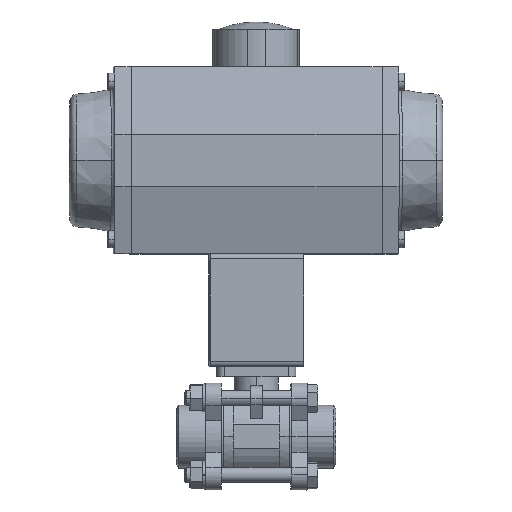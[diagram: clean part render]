
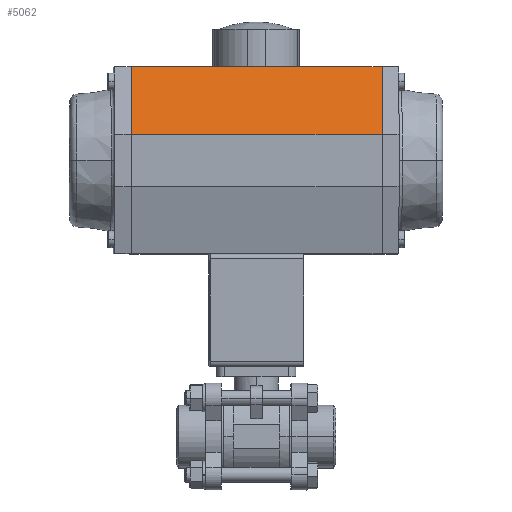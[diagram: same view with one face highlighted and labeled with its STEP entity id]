
A CAD part, top view. The second image highlights one B-rep face of the part: STEP entity #5062.
In plain terms, the highlighted planar face has unit normal (0.01, 0.255, 0.967) as drawn and (-0.967, 0.255, 0) by its records, which use the part's own axes.
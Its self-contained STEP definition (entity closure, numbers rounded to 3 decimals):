
#475 = DIRECTION ( 'NONE',  ( -0.255, -0.967, 0. ) ) ;
#822 = CARTESIAN_POINT ( 'NONE',  ( -42.5, 14., 67. ) ) ;
#840 = CARTESIAN_POINT ( 'NONE',  ( -33., 50., -67. ) ) ;
#1962 = CARTESIAN_POINT ( 'NONE',  ( -33., 50., -67. ) ) ;
#2930 = DIRECTION ( 'NONE',  ( -0.255, -0.967, 0. ) ) ;
#3181 = ORIENTED_EDGE ( 'NONE', *, *, #13735, .T. ) ;
#3276 = DIRECTION ( 'NONE',  ( -0.967, 0.255, 0. ) ) ;
#4361 = VECTOR ( 'NONE', #6103, 1000. ) ;
#4491 = EDGE_CURVE ( 'NONE', #10893, #7457, #15855, .T. ) ;
#4574 = LINE ( 'NONE', #15818, #4361 ) ;
#4577 = EDGE_CURVE ( 'NONE', #8665, #12922, #5393, .T. ) ;
#4600 = ORIENTED_EDGE ( 'NONE', *, *, #10222, .F. ) ;
#5062 = ADVANCED_FACE ( 'NONE', ( #14274 ), #14080, .T. ) ;
#5393 = LINE ( 'NONE', #6150, #8660 ) ;
#5971 = EDGE_LOOP ( 'NONE', ( #3181, #11640, #4600, #7565 ) ) ;
#6099 = AXIS2_PLACEMENT_3D ( 'NONE', #15666, #3276, #17182 ) ;
#6103 = DIRECTION ( 'NONE',  ( 0., 0., 1. ) ) ;
#6150 = CARTESIAN_POINT ( 'NONE',  ( -33., 50., -67. ) ) ;
#6872 = VECTOR ( 'NONE', #13026, 1000. ) ;
#7457 = VERTEX_POINT ( 'NONE', #822 ) ;
#7565 = ORIENTED_EDGE ( 'NONE', *, *, #4577, .T. ) ;
#8559 = CARTESIAN_POINT ( 'NONE',  ( -33., 50., 67. ) ) ;
#8660 = VECTOR ( 'NONE', #475, 1000. ) ;
#8665 = VERTEX_POINT ( 'NONE', #840 ) ;
#9476 = CARTESIAN_POINT ( 'NONE',  ( -42.5, 14., -67. ) ) ;
#10222 = EDGE_CURVE ( 'NONE', #8665, #10893, #17758, .T. ) ;
#10893 = VERTEX_POINT ( 'NONE', #13070 ) ;
#11640 = ORIENTED_EDGE ( 'NONE', *, *, #4491, .F. ) ;
#12922 = VERTEX_POINT ( 'NONE', #9476 ) ;
#13026 = DIRECTION ( 'NONE',  ( 0., 0., 1. ) ) ;
#13070 = CARTESIAN_POINT ( 'NONE',  ( -33., 50., 67. ) ) ;
#13735 = EDGE_CURVE ( 'NONE', #12922, #7457, #4574, .T. ) ;
#14080 = PLANE ( 'NONE',  #6099 ) ;
#14097 = VECTOR ( 'NONE', #2930, 1000. ) ;
#14274 = FACE_OUTER_BOUND ( 'NONE', #5971, .T. ) ;
#15666 = CARTESIAN_POINT ( 'NONE',  ( -33., 50., -67. ) ) ;
#15818 = CARTESIAN_POINT ( 'NONE',  ( -42.5, 14., -67. ) ) ;
#15855 = LINE ( 'NONE', #8559, #14097 ) ;
#17182 = DIRECTION ( 'NONE',  ( -0.255, -0.967, 0. ) ) ;
#17758 = LINE ( 'NONE', #1962, #6872 ) ;
